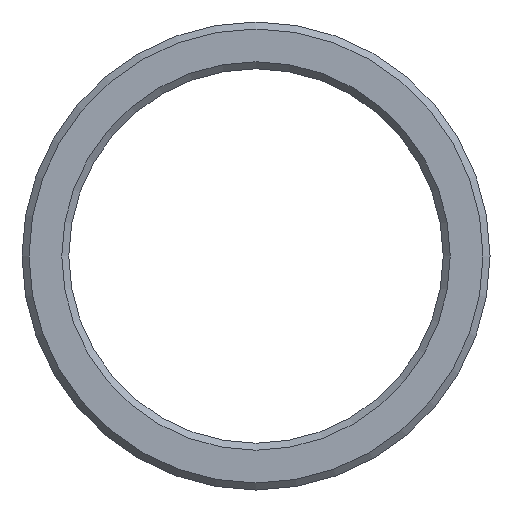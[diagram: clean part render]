
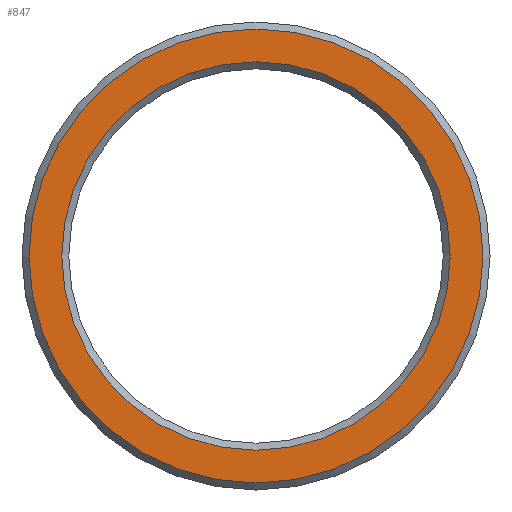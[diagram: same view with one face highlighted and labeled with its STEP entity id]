
A CAD part, front view. The second image highlights one B-rep face of the part: STEP entity #847.
In plain terms, the highlighted planar face has unit normal (0, -1, 0).
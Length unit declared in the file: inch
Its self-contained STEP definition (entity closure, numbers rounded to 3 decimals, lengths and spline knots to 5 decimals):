
#15=FACE_BOUND('',#129,.T.);
#17=PLANE('',#992);
#78=FACE_OUTER_BOUND('',#128,.T.);
#128=EDGE_LOOP('',(#745));
#129=EDGE_LOOP('',(#746));
#304=CIRCLE('',#990,0.32677);
#306=CIRCLE('',#993,0.38189);
#383=VERTEX_POINT('',#1541);
#385=VERTEX_POINT('',#1547);
#504=EDGE_CURVE('',#383,#383,#304,.T.);
#507=EDGE_CURVE('',#385,#385,#306,.T.);
#745=ORIENTED_EDGE('',*,*,#507,.F.);
#746=ORIENTED_EDGE('',*,*,#504,.F.);
#847=ADVANCED_FACE('',(#78,#15),#17,.F.);
#990=AXIS2_PLACEMENT_3D('',#1542,#1277,#1278);
#992=AXIS2_PLACEMENT_3D('',#1546,#1282,#1283);
#993=AXIS2_PLACEMENT_3D('',#1548,#1284,#1285);
#1277=DIRECTION('center_axis',(0.,-1.,0.));
#1278=DIRECTION('ref_axis',(-1.,0.,0.));
#1282=DIRECTION('center_axis',(0.,1.,0.));
#1283=DIRECTION('ref_axis',(0.,0.,1.));
#1284=DIRECTION('center_axis',(0.,1.,0.));
#1285=DIRECTION('ref_axis',(1.,0.,0.));
#1541=CARTESIAN_POINT('',(0.32677,-2.95276,0.));
#1542=CARTESIAN_POINT('Origin',(0.,-2.95276,0.));
#1546=CARTESIAN_POINT('Origin',(0.,-2.95276,
0.));
#1547=CARTESIAN_POINT('',(-0.38189,-2.95276,0.));
#1548=CARTESIAN_POINT('Origin',(0.,-2.95276,0.));
